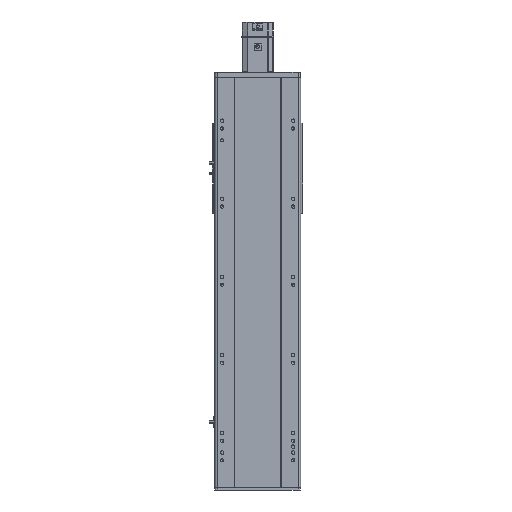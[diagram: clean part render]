
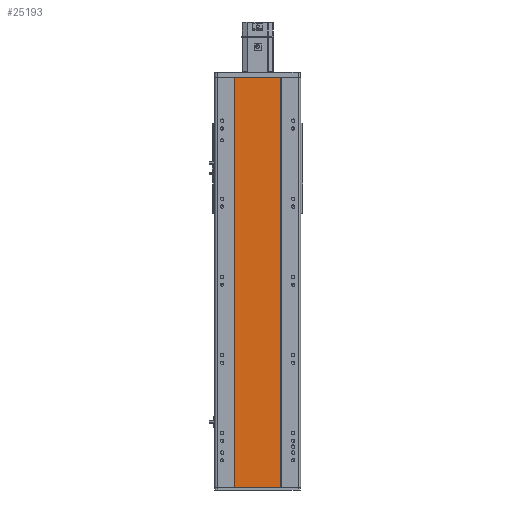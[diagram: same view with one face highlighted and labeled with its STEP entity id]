
A CAD part, front view. The second image highlights one B-rep face of the part: STEP entity #25193.
In plain terms, the highlighted planar face has unit normal (0, -1, 0).
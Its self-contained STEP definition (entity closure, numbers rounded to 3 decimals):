
#41 = CARTESIAN_POINT ( 'NONE',  ( -59., 1., 525.5 ) ) ;
#652 = ORIENTED_EDGE ( 'NONE', *, *, #31626, .T. ) ;
#2618 = AXIS2_PLACEMENT_3D ( 'NONE', #41, #12309, #38251 ) ;
#3679 = CARTESIAN_POINT ( 'NONE',  ( -59., 1., 525.5 ) ) ;
#5151 = ORIENTED_EDGE ( 'NONE', *, *, #22258, .F. ) ;
#5673 = CARTESIAN_POINT ( 'NONE',  ( 59., 1., -525.5 ) ) ;
#5808 = VECTOR ( 'NONE', #8551, 1000. ) ;
#6630 = CARTESIAN_POINT ( 'NONE',  ( 59., 1., 525.5 ) ) ;
#8551 = DIRECTION ( 'NONE',  ( 0., 0., -1. ) ) ;
#9255 = PLANE ( 'NONE',  #2618 ) ;
#10131 = VERTEX_POINT ( 'NONE', #5673 ) ;
#12309 = DIRECTION ( 'NONE',  ( 0., 1., 0. ) ) ;
#14189 = CARTESIAN_POINT ( 'NONE',  ( 59., 1., 525.5 ) ) ;
#16131 = DIRECTION ( 'NONE',  ( 1., 0., 0. ) ) ;
#16153 = ORIENTED_EDGE ( 'NONE', *, *, #29466, .T. ) ;
#17008 = CARTESIAN_POINT ( 'NONE',  ( -59., 1., 525.5 ) ) ;
#19317 = DIRECTION ( 'NONE',  ( 0., 0., -1. ) ) ;
#20031 = LINE ( 'NONE', #3679, #24656 ) ;
#22258 = EDGE_CURVE ( 'NONE', #35040, #33235, #36312, .T. ) ;
#22320 = DIRECTION ( 'NONE',  ( 1., 0., 0. ) ) ;
#22410 = EDGE_LOOP ( 'NONE', ( #16153, #25827, #5151, #652 ) ) ;
#24656 = VECTOR ( 'NONE', #19317, 1000. ) ;
#25193 = ADVANCED_FACE ( 'NONE', ( #26814 ), #9255, .F. ) ;
#25580 = EDGE_CURVE ( 'NONE', #33235, #10131, #26482, .T. ) ;
#25689 = VECTOR ( 'NONE', #16131, 1000. ) ;
#25827 = ORIENTED_EDGE ( 'NONE', *, *, #25580, .F. ) ;
#26482 = LINE ( 'NONE', #14189, #5808 ) ;
#26814 = FACE_OUTER_BOUND ( 'NONE', #22410, .T. ) ;
#27916 = CARTESIAN_POINT ( 'NONE',  ( -59., 1., -525.5 ) ) ;
#29466 = EDGE_CURVE ( 'NONE', #35868, #10131, #35867, .T. ) ;
#30972 = CARTESIAN_POINT ( 'NONE',  ( -59., 1., 525.5 ) ) ;
#31626 = EDGE_CURVE ( 'NONE', #35040, #35868, #20031, .T. ) ;
#33235 = VERTEX_POINT ( 'NONE', #6630 ) ;
#33917 = CARTESIAN_POINT ( 'NONE',  ( -59., 1., -525.5 ) ) ;
#35040 = VERTEX_POINT ( 'NONE', #17008 ) ;
#35867 = LINE ( 'NONE', #33917, #25689 ) ;
#35868 = VERTEX_POINT ( 'NONE', #27916 ) ;
#36312 = LINE ( 'NONE', #30972, #37254 ) ;
#37254 = VECTOR ( 'NONE', #22320, 1000. ) ;
#38251 = DIRECTION ( 'NONE',  ( -1., 0., 0. ) ) ;
